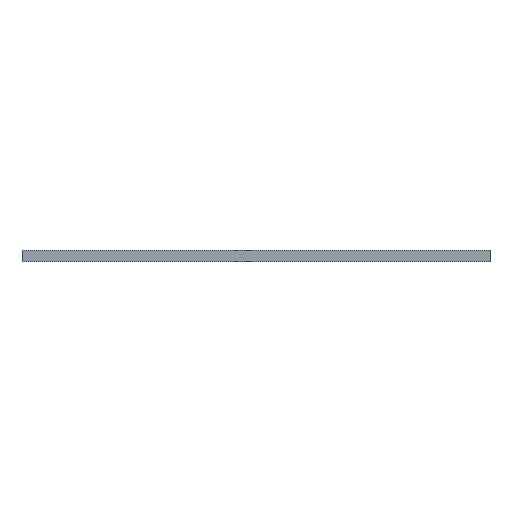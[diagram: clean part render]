
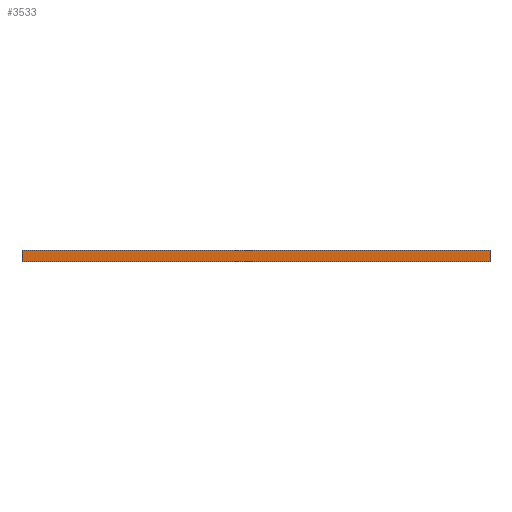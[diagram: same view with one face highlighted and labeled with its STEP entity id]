
A CAD part, front view. The second image highlights one B-rep face of the part: STEP entity #3533.
In plain terms, the highlighted planar face has unit normal (0, -1, 0).
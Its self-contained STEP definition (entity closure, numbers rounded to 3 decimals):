
#396=FACE_OUTER_BOUND('',#587,.T.);
#587=EDGE_LOOP('',(#2587,#2588,#2589,#2590));
#860=LINE('',#5098,#1201);
#861=LINE('',#5101,#1202);
#862=LINE('',#5103,#1203);
#863=LINE('',#5104,#1204);
#1201=VECTOR('',#4294,10.);
#1202=VECTOR('',#4297,10.);
#1203=VECTOR('',#4298,10.);
#1204=VECTOR('',#4299,10.);
#1526=VERTEX_POINT('',#5094);
#1527=VERTEX_POINT('',#5096);
#1528=VERTEX_POINT('',#5100);
#1529=VERTEX_POINT('',#5102);
#1958=EDGE_CURVE('',#1526,#1527,#860,.T.);
#1959=EDGE_CURVE('',#1526,#1528,#861,.T.);
#1960=EDGE_CURVE('',#1529,#1527,#862,.T.);
#1961=EDGE_CURVE('',#1528,#1529,#863,.T.);
#2587=ORIENTED_EDGE('',*,*,#1959,.F.);
#2588=ORIENTED_EDGE('',*,*,#1958,.T.);
#2589=ORIENTED_EDGE('',*,*,#1960,.F.);
#2590=ORIENTED_EDGE('',*,*,#1961,.F.);
#3420=PLANE('',#3790);
#3533=ADVANCED_FACE('',(#396),#3420,.T.);
#3790=AXIS2_PLACEMENT_3D('',#5099,#4295,#4296);
#4294=DIRECTION('',(1.,0.,0.));
#4295=DIRECTION('center_axis',(0.,-1.,0.));
#4296=DIRECTION('ref_axis',(0.,0.,-1.));
#4297=DIRECTION('',(0.,0.,1.));
#4298=DIRECTION('',(0.,0.,-1.));
#4299=DIRECTION('',(1.,0.,0.));
#5094=CARTESIAN_POINT('',(0.,-8.493,0.491));
#5096=CARTESIAN_POINT('',(1000.,-8.493,0.491));
#5098=CARTESIAN_POINT('',(0.,-8.493,0.491));
#5099=CARTESIAN_POINT('Origin',(0.,-8.493,24.195));
#5100=CARTESIAN_POINT('',(0.,-8.493,24.195));
#5101=CARTESIAN_POINT('',(0.,-8.493,0.491));
#5102=CARTESIAN_POINT('',(1000.,-8.493,24.195));
#5103=CARTESIAN_POINT('',(1000.,-8.493,0.491));
#5104=CARTESIAN_POINT('',(0.,-8.493,24.195));
